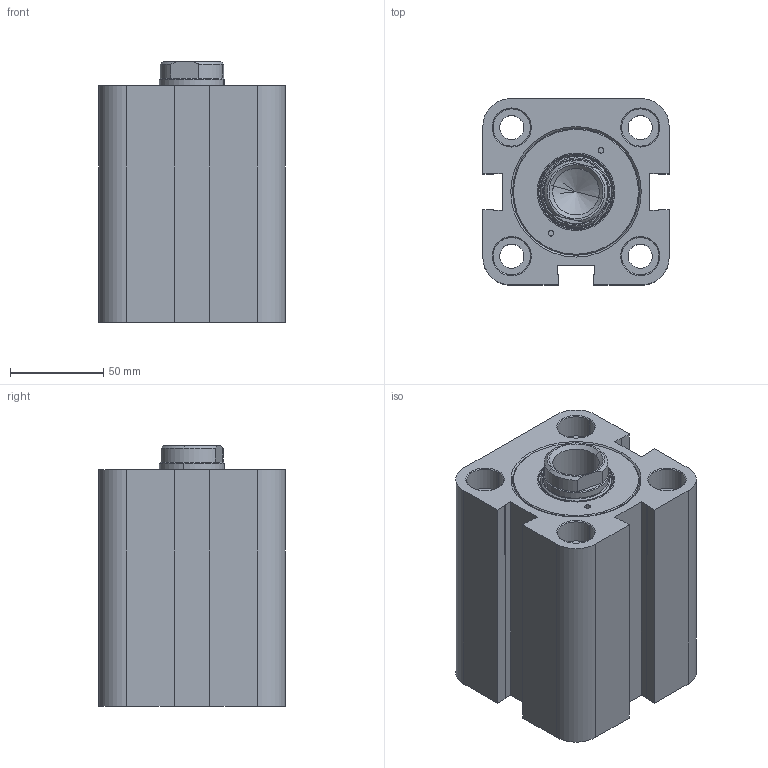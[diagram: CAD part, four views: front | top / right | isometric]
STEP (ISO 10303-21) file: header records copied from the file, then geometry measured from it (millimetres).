
FILE_DESCRIPTION (( 'STEP AP214' ), '1' );
FILE_NAME ('KSWC_03_M_63_35_50_WEB.STEP', '2020-08-19T12:04:26', ( '' ), ( '' ), 'SwSTEP 2.0', 'SolidWorks 2018', '' );
FILE_SCHEMA (( 'AUTOMOTIVE_DESIGN' ));
Length unit declared in the file: millimetre
Products named in the file (8): KSWC_03_M_63_35_50_WEB; 35_K_MIL; KSWC_03_M_63_GOVDE_WEB; K05-35X41X4; KSWC_03_63_35_烰_KAPAK; KO-58X3; KSWC_03_63_35_ON_KAPAK; K22-35X45X8
Assembly tree (7 placements, depth 3):
  KSWC_03_M_63_35_50_WEB
    KSWC_03_M_63_GOVDE_WEB
    35_K_MIL
    KSWC_03_63_35_ON_KAPAK
      KSWC_03_63_35_烰_KAPAK
      K05-35X41X4
      K22-35X45X8
      KO-58X3
Bounding box: 100 x 100 x 140 mm (x, y, z)
Volume: 886627 mm3; surface area: 160020.4 mm2
Topology: 6 solids, 6 shells, 433 faces, 1050 edges, 664 vertices
Faces by surface type: plane 152, bspline 118, cylinder 83, cone 80
Entity records: 20112 total; most frequent: CARTESIAN_POINT 8494, ORIENTED_EDGE 2096, DIRECTION 1712, EDGE_CURVE 1048, VERTEX_POINT 664, AXIS2_PLACEMENT_3D 580, VECTOR 552, LINE 552
